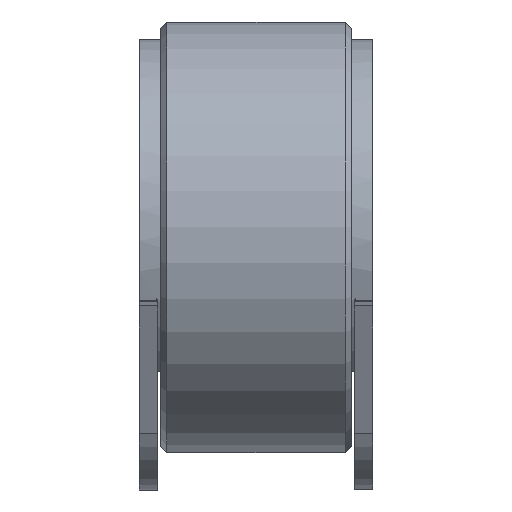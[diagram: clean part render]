
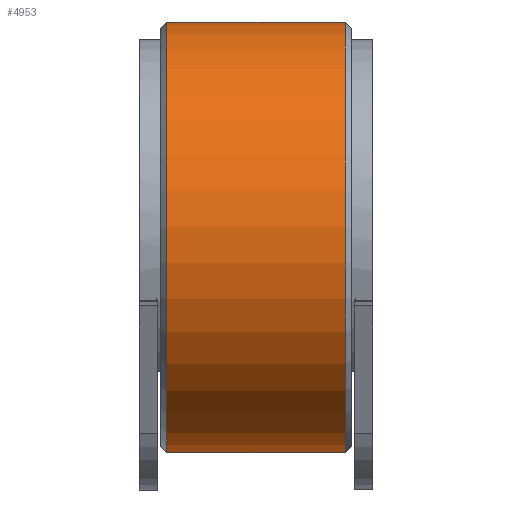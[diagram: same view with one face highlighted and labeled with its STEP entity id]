
A CAD part, left-side view. The second image highlights one B-rep face of the part: STEP entity #4953.
In plain terms, the highlighted cylindrical face has radius 70 mm (diameter 140 mm), a partial arc.
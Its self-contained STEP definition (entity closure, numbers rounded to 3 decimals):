
#317=FACE_OUTER_BOUND('',#608,.T.);
#608=EDGE_LOOP('',(#3295,#3296,#3297,#3298));
#930=CIRCLE('',#5409,70.);
#932=CIRCLE('',#5412,70.);
#1236=LINE('',#7642,#1645);
#1245=LINE('',#7670,#1654);
#1645=VECTOR('',#6039,10.);
#1654=VECTOR('',#6068,10.);
#2065=VERTEX_POINT('',#7634);
#2067=VERTEX_POINT('',#7640);
#2074=VERTEX_POINT('',#7662);
#2076=VERTEX_POINT('',#7668);
#2532=EDGE_CURVE('',#2065,#2067,#1236,.T.);
#2542=EDGE_CURVE('',#2074,#2065,#930,.T.);
#2545=EDGE_CURVE('',#2076,#2067,#932,.T.);
#2546=EDGE_CURVE('',#2074,#2076,#1245,.T.);
#3295=ORIENTED_EDGE('',*,*,#2532,.T.);
#3296=ORIENTED_EDGE('',*,*,#2545,.F.);
#3297=ORIENTED_EDGE('',*,*,#2546,.F.);
#3298=ORIENTED_EDGE('',*,*,#2542,.T.);
#4723=CYLINDRICAL_SURFACE('',#5411,70.);
#4953=ADVANCED_FACE('',(#317),#4723,.T.);
#5409=AXIS2_PLACEMENT_3D('',#7663,#6059,#6060);
#5411=AXIS2_PLACEMENT_3D('',#7667,#6064,#6065);
#5412=AXIS2_PLACEMENT_3D('',#7669,#6066,#6067);
#6039=DIRECTION('',(-1.,0.,0.));
#6059=DIRECTION('center_axis',(-1.,0.,0.));
#6060=DIRECTION('ref_axis',(0.,0.919,-0.394));
#6064=DIRECTION('center_axis',(-1.,0.,0.));
#6065=DIRECTION('ref_axis',(0.,0.919,-0.394));
#6066=DIRECTION('center_axis',(-1.,0.,0.));
#6067=DIRECTION('ref_axis',(0.,0.919,-0.394));
#6068=DIRECTION('',(-1.,0.,0.));
#7634=CARTESIAN_POINT('',(29.,-134.325,-17.39));
#7640=CARTESIAN_POINT('',(-29.,-134.325,-17.39));
#7642=CARTESIAN_POINT('',(29.,-134.325,-17.39));
#7662=CARTESIAN_POINT('',(29.,0.,-45.));
#7663=CARTESIAN_POINT('Origin',(29.,-70.,-45.));
#7667=CARTESIAN_POINT('Origin',(0.,-70.,
-45.));
#7668=CARTESIAN_POINT('',(-29.,0.,-45.));
#7669=CARTESIAN_POINT('Origin',(-29.,-70.,-45.));
#7670=CARTESIAN_POINT('',(29.,0.,-45.));
